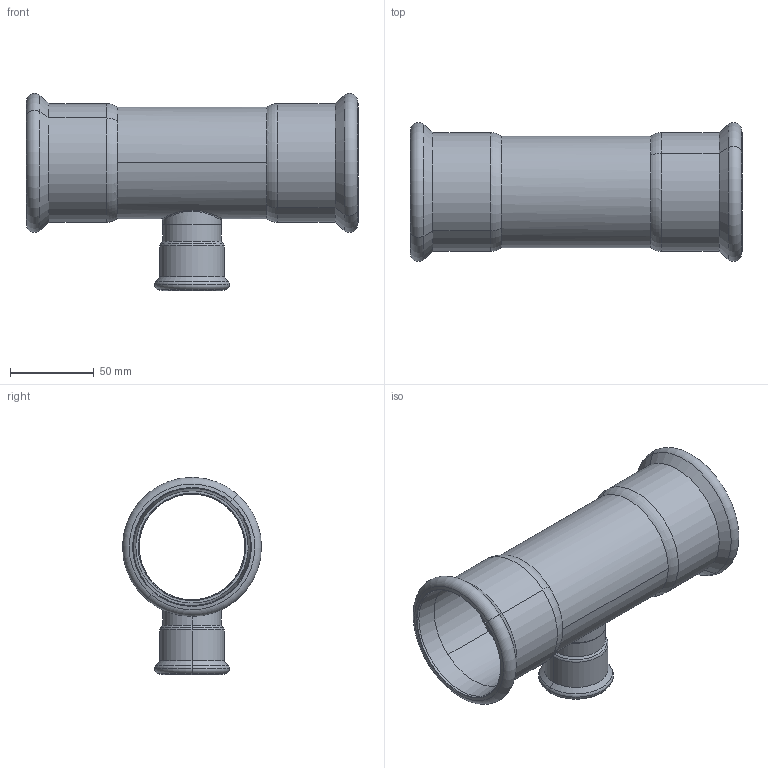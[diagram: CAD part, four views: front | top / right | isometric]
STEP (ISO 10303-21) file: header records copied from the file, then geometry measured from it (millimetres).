
FILE_DESCRIPTION(('CoCreate Modeling STEP Export'),'2;1');
FILE_NAME('C1415 67x35x67.stp','2014-10-23T15:58:35',(''),(''),'CoCreate Modeling STEP processor for AP214 (Solid Model)','CoCreate Modeling 17.00A 17-Jun-2010 (C) Parametric Technology GmbH','');
FILE_SCHEMA(('AUTOMOTIVE_DESIGN { 1 0 10303 214 1 1 1 1 }'));
Length unit declared in the file: millimetre
Products named in the file (2): TSTUK_67x35x67mm
Assembly tree (1 placements, depth 2):
  TSTUK_67x35x67mm
    TSTUK_67x35x67mm
Bounding box: 198.08 x 82.91 x 117.61 mm (x, y, z)
Volume: 108628.5 mm3; surface area: 98166.5 mm2
Topology: 1 solids, 1 shells, 107 faces, 244 edges, 144 vertices
Faces by surface type: cylinder 36, cone 36, torus 24, plane 7, bspline 4
Entity records: 6287 total; most frequent: CARTESIAN_POINT 4277, ORIENTED_EDGE 488, DIRECTION 338, EDGE_CURVE 244, VERTEX_POINT 144, AXIS2_PLACEMENT_3D 133, EDGE_LOOP 116, FACE_OUTER_BOUND 107
